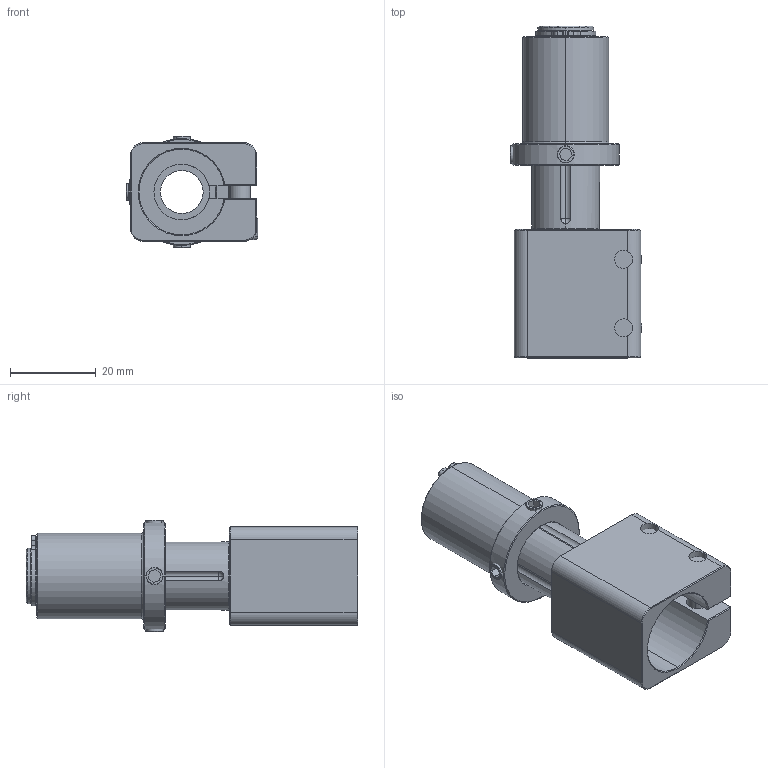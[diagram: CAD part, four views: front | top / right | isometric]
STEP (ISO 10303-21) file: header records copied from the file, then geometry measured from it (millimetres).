
FILE_DESCRIPTION (( 'STEP AP214' ), '1' );
FILE_NAME ('GSP20-20.STEP', '2019-11-12T08:44:57', ( '微软用户' ), ( '微软中国' ), 'SwSTEP 2.0', 'SolidWorks 2016', '' );
FILE_SCHEMA (( 'AUTOMOTIVE_DESIGN' ));
Length unit declared in the file: millimetre
Products named in the file (1): GSP20-20
Bounding box: 30.72 x 77.5 x 26 mm (x, y, z)
Volume: 17801.6 mm3; surface area: 16301.2 mm2
Topology: 11 solids, 11 shells, 260 faces, 632 edges, 391 vertices
Faces by surface type: plane 107, cylinder 79, cone 48, sphere 18, torus 6, bspline 2
Entity records: 10917 total; most frequent: CARTESIAN_POINT 1816, DIRECTION 1315, ORIENTED_EDGE 1226, EDGE_CURVE 613, AXIS2_PLACEMENT_3D 489, VERTEX_POINT 382, VECTOR 337, LINE 337
